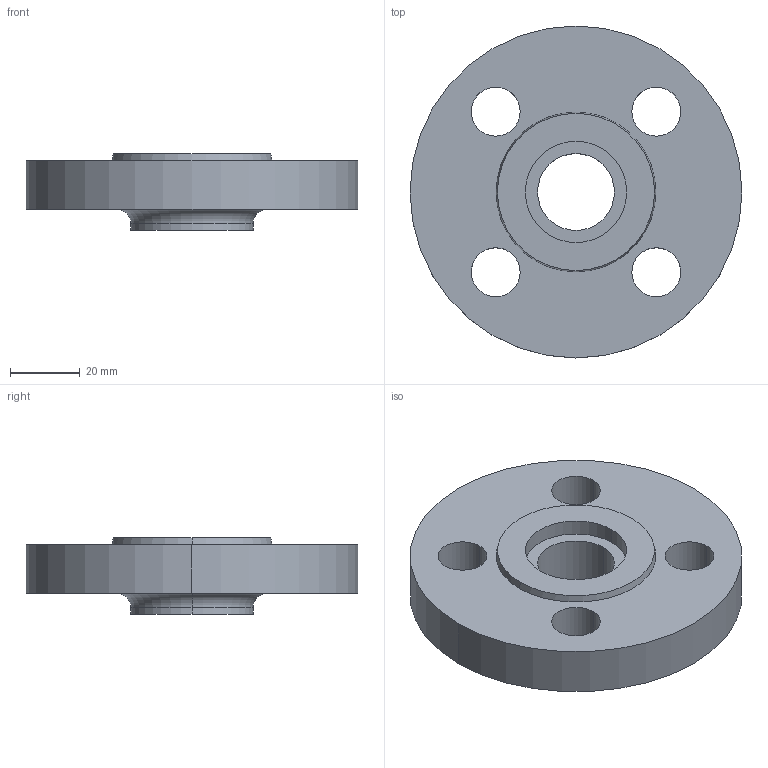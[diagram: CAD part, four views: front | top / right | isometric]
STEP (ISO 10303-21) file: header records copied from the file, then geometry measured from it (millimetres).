
FILE_DESCRIPTION (( 'STEP AP214' ), '1' );
FILE_NAME ('PN40 DN15 Type 12 - Type G Face.STEP', '2018-12-29T14:58:21', ( '' ), ( '' ), 'SwSTEP 2.0', 'SolidWorks 2019', '' );
FILE_SCHEMA (( 'AUTOMOTIVE_DESIGN' ));
Length unit declared in the file: millimetre
Products named in the file (1): PN40 DN15 Type 12 - Type G Face
Bounding box: 95 x 95 x 22 mm (x, y, z)
Volume: 90390.3 mm3; surface area: 21162.7 mm2
Topology: 1 solids, 1 shells, 25 faces, 58 edges, 38 vertices
Faces by surface type: cylinder 16, plane 5, torus 2, cone 2
Entity records: 790 total; most frequent: DIRECTION 150, CARTESIAN_POINT 122, ORIENTED_EDGE 116, AXIS2_PLACEMENT_3D 66, EDGE_CURVE 58, CIRCLE 40, EDGE_LOOP 38, VERTEX_POINT 38
